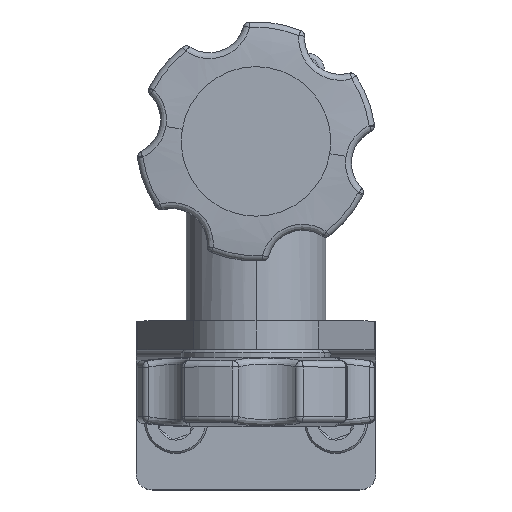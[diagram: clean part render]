
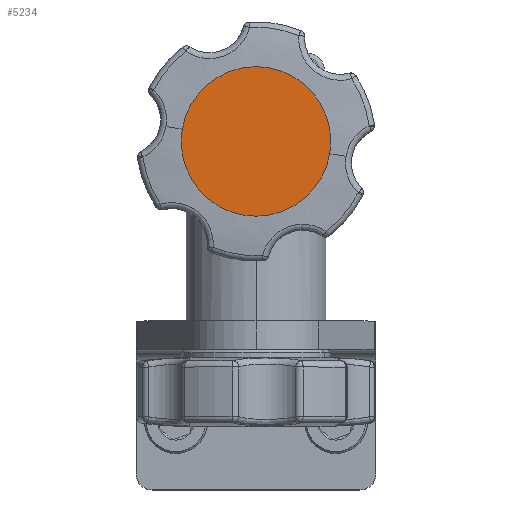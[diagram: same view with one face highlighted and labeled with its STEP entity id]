
A CAD part, top view. The second image highlights one B-rep face of the part: STEP entity #5234.
In plain terms, the highlighted planar face has unit normal (0, 0, 1).
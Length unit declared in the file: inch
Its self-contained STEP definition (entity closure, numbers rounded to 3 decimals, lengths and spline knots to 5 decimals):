
#2851=CARTESIAN_POINT('',(0.,0.,0.48031));
#2852=DIRECTION('',(0.,0.,-1.));
#2853=DIRECTION('',(-1.,0.,0.));
#2854=AXIS2_PLACEMENT_3D('',#2851,#2852,#2853);
#2856=CARTESIAN_POINT('',(0.,0.,0.48031));
#2857=DIRECTION('',(0.,0.,-1.));
#2858=DIRECTION('',(1.,0.,0.));
#2859=AXIS2_PLACEMENT_3D('',#2856,#2857,#2858);
#3851=CARTESIAN_POINT('',(-0.46752,0.,0.48031));
#3852=CARTESIAN_POINT('',(0.46752,0.,0.48031));
#3853=VERTEX_POINT('',#3851);
#3854=VERTEX_POINT('',#3852);
#5224=CARTESIAN_POINT('',(0.,0.,0.48031));
#5225=DIRECTION('',(0.,0.,1.));
#5226=DIRECTION('',(1.,0.,0.));
#5227=AXIS2_PLACEMENT_3D('',#5224,#5225,#5226);
#5228=PLANE('',#5227);
#5229=ORIENTED_EDGE('',*,*,#5204,.T.);
#5231=ORIENTED_EDGE('',*,*,#5230,.T.);
#5232=EDGE_LOOP('',(#5229,#5231));
#5233=FACE_OUTER_BOUND('',#5232,.F.);
#2855=CIRCLE('',#2854,0.46752);
#2860=CIRCLE('',#2859,0.46752);
#5204=EDGE_CURVE('',#3853,#3854,#2855,.T.);
#5230=EDGE_CURVE('',#3854,#3853,#2860,.T.);
#5234=ADVANCED_FACE('',(#5233),#5228,.T.);
